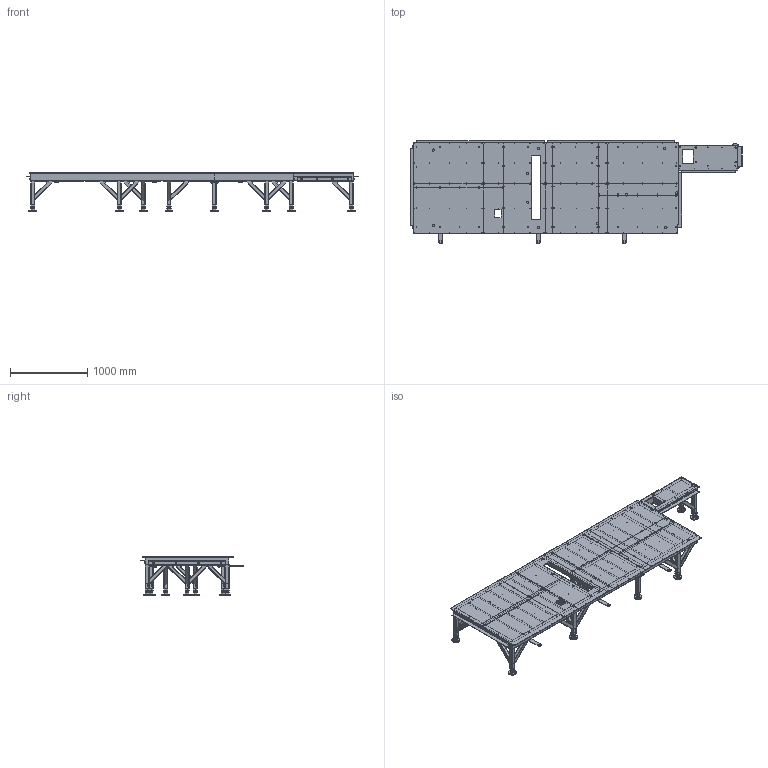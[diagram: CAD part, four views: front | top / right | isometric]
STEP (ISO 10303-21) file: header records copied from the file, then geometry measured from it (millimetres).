
FILE_DESCRIPTION (( 'STEP AP214' ), '1' );
FILE_NAME ('FAU-QUIX20-01.STEP', '2025-08-29T18:04:49', ( '' ), ( '' ), 'SwSTEP 2.0', 'SolidWorks 2017', '' );
FILE_SCHEMA (( 'AUTOMOTIVE_DESIGN' ));
Length unit declared in the file: millimetre
Products named in the file (35): z_Washer_WASHER M 8; Z-tube-pied_c12; FAU-QUIX20-09_700; Z-pied-angle_1+; Z-CHASSIS-QUIX20-1_D‚faut[Brut d''usinage]; FAU-QUIX20-05; FAU-GRD6&7-05; Z-screw_din_933-m30x120; FAU-QUIX20-09_1050; FAU-QUIX20-01; FAU-QUIX20-04_ens-cent12; Z-CHASSIS-QUIX20-2_2[Brut d''usinage]; Z-M12 ASSY_m8-84; Z-platine150-100_trous-lisses; Z-platine50-50-5_c12-fix; z_NUT_H_NUT  H M 8; FAU-QUIX20-09_250; Z-Screw_H _SCREW H M10x30-26; Z-M12 ASSY_108; FAU-QUIX20-09_1650; z_NUT_H_NUT H M 12; FAU-QUIX20-08; FAU-QUIX20-05_inox; FAU-QUIX20-07_pied seul; Z-pied tube_c12-fix; Z-Tige filetée - M12_vis; z_Washer_WASHER M 12; Z-pied-angle; Z-pied-angle_triple; Z-Tige filetée - M12_M12x150; Z-Washer _WASHER M 10; Z-M10 assy; Z-ecrou_hm_‚crou Hm M30
Assembly tree (89 placements, depth 5):
  FAU-QUIX20-01
    Z-pied-angle_triple  x6
      Z-tube-pied_c12
      Z-pied tube_c12-fix
        Z-platine50-50-5_c12-fix
        FAU-QUIX20-07_pied seul
          FAU-GRD6&7-05
          Z-ecrou_hm_‚crou Hm M30
          Z-screw_din_933-m30x120
    Z-pied-angle  x3
      Z-tube-pied_c12
      Z-pied tube_c12-fix
        Z-platine50-50-5_c12-fix
        FAU-QUIX20-07_pied seul
          FAU-GRD6&7-05
          Z-ecrou_hm_‚crou Hm M30
          Z-screw_din_933-m30x120
    Z-CHASSIS-QUIX20-1_D‚faut[Brut d''usinage]
    Z-CHASSIS-QUIX20-2_2[Brut d''usinage]
    Z-pied-angle_1+  x2
      Z-tube-pied_c12
      Z-pied tube_c12-fix
        Z-platine50-50-5_c12-fix
        FAU-QUIX20-07_pied seul
          FAU-GRD6&7-05
          Z-ecrou_hm_‚crou Hm M30
          Z-screw_din_933-m30x120
    FAU-QUIX20-04_ens-cent12  x2
      Z-pied tube_c12-fix
        Z-platine50-50-5_c12-fix
        FAU-QUIX20-07_pied seul
          FAU-GRD6&7-05
          Z-ecrou_hm_‚crou Hm M30
          Z-screw_din_933-m30x120
      Z-platine150-100_trous-lisses
    FAU-QUIX20-05
    FAU-QUIX20-05_inox
    FAU-QUIX20-09_1050
    FAU-QUIX20-09_700  x2
    Z-M12 ASSY_m8-84  x24
      Z-Tige filetée - M12_vis
      z_Washer_WASHER M 8
      z_NUT_H_NUT  H M 8
    FAU-QUIX20-09_250
    FAU-QUIX20-09_1650  x2
    FAU-QUIX20-08  x3
    Z-M10 assy  x8
      Z-Screw_H _SCREW H M10x30-26
      Z-Washer _WASHER M 10
    Z-M12 ASSY_108  x2
      Z-Tige filetée - M12_M12x150
      z_Washer_WASHER M 12
      z_NUT_H_NUT H M 12
Bounding box: 4285 x 1325 x 500 mm (x, y, z)
Volume: 63674090.7 mm3; surface area: 37932838.7 mm2
Topology: 296 solids, 296 shells, 5083 faces, 12325 edges, 7921 vertices
Faces by surface type: plane 2195, cylinder 1940, cone 922, bspline 26
Entity records: 76446 total; most frequent: CARTESIAN_POINT 12806, DIRECTION 12008, ORIENTED_EDGE 11134, EDGE_CURVE 5567, AXIS2_PLACEMENT_3D 4469, VERTEX_POINT 3649, VECTOR 3070, LINE 3070
